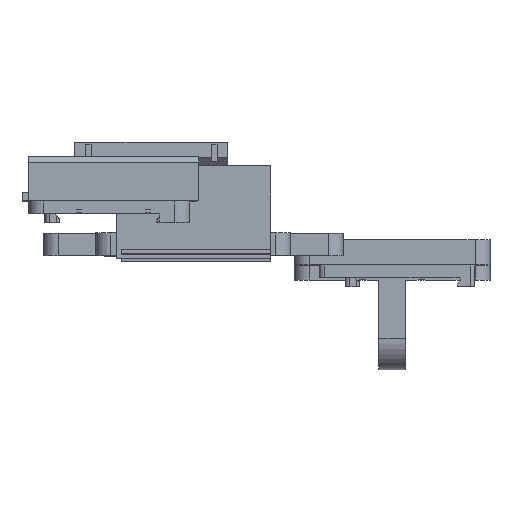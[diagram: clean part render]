
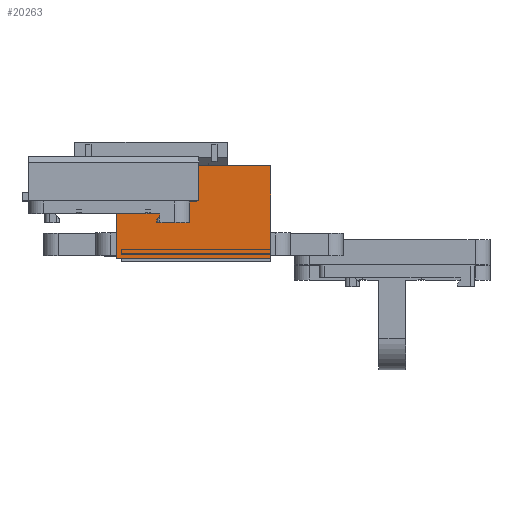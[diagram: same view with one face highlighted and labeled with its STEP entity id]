
A CAD part, top view. The second image highlights one B-rep face of the part: STEP entity #20263.
In plain terms, the highlighted planar face has unit normal (0, 0, 1).
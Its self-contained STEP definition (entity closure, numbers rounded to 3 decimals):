
#2128=FACE_OUTER_BOUND('',#3265,.T.);
#3265=EDGE_LOOP('',(#17281,#17282,#17283,#17284));
#5212=LINE('',#32504,#7465);
#5241=LINE('',#32559,#7494);
#5246=LINE('',#32569,#7499);
#5247=LINE('',#32570,#7500);
#7465=VECTOR('',#26606,10.);
#7494=VECTOR('',#26653,10.);
#7499=VECTOR('',#26662,10.);
#7500=VECTOR('',#26663,10.);
#9474=VERTEX_POINT('',#32501);
#9475=VERTEX_POINT('',#32503);
#9492=VERTEX_POINT('',#32558);
#9495=VERTEX_POINT('',#32568);
#12146=EDGE_CURVE('',#9475,#9474,#5212,.T.);
#12175=EDGE_CURVE('',#9492,#9475,#5241,.T.);
#12180=EDGE_CURVE('',#9474,#9495,#5246,.T.);
#12181=EDGE_CURVE('',#9495,#9492,#5247,.T.);
#17281=ORIENTED_EDGE('',*,*,#12175,.T.);
#17282=ORIENTED_EDGE('',*,*,#12146,.T.);
#17283=ORIENTED_EDGE('',*,*,#12180,.T.);
#17284=ORIENTED_EDGE('',*,*,#12181,.T.);
#19330=PLANE('',#21946);
#20263=ADVANCED_FACE('',(#2128),#19330,.T.);
#21946=AXIS2_PLACEMENT_3D('',#32567,#26660,#26661);
#26606=DIRECTION('',(0.,1.,0.));
#26653=DIRECTION('',(1.,0.,0.));
#26660=DIRECTION('center_axis',(0.,0.,1.));
#26661=DIRECTION('ref_axis',(1.,0.,0.));
#26662=DIRECTION('',(-1.,0.,0.));
#26663=DIRECTION('',(0.,-1.,0.));
#32501=CARTESIAN_POINT('',(27.196,11.887,39.567));
#32503=CARTESIAN_POINT('',(27.196,-19.1,39.567));
#32504=CARTESIAN_POINT('',(27.196,-11.229,39.567));
#32558=CARTESIAN_POINT('',(-24.304,-19.1,39.567));
#32559=CARTESIAN_POINT('',(-23.804,-19.1,39.567));
#32567=CARTESIAN_POINT('Origin',(27.196,-19.1,39.567));
#32568=CARTESIAN_POINT('',(-24.304,11.887,39.567));
#32569=CARTESIAN_POINT('',(27.196,11.887,39.567));
#32570=CARTESIAN_POINT('',(-24.304,-11.229,39.567));
